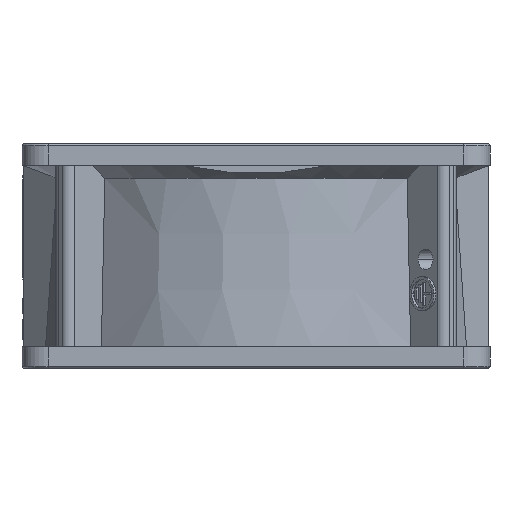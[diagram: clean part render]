
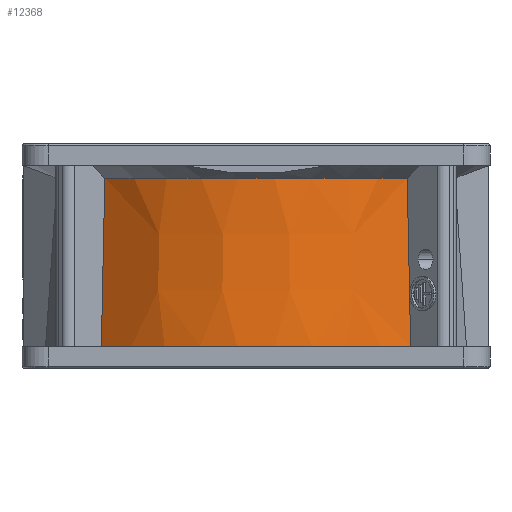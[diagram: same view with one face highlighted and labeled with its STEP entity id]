
A CAD part, left-side view. The second image highlights one B-rep face of the part: STEP entity #12368.
In plain terms, the highlighted conical face has half-angle 1.66 degrees and reference radius 38.981 mm.
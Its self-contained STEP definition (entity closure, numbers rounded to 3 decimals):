
#399=CARTESIAN_POINT('',(-115.,0.,-94.914));
#400=DIRECTION('',(0.,0.,1.));
#401=DIRECTION('',(-0.742,0.67,0.));
#402=AXIS2_PLACEMENT_3D('',#399,#400,#401);
#563=CARTESIAN_POINT('',(-143.647,25.818,-66.172));
#564=CARTESIAN_POINT('',(-143.712,25.884,-69.355));
#565=CARTESIAN_POINT('',(-143.843,26.014,-75.728));
#566=CARTESIAN_POINT('',(-144.039,26.211,-85.309));
#567=CARTESIAN_POINT('',(-144.171,26.342,-91.71));
#568=CARTESIAN_POINT('',(-144.236,26.408,-94.914));
#570=CARTESIAN_POINT('',(-144.236,-26.408,-94.914));
#571=CARTESIAN_POINT('',(-144.171,-26.342,
-91.71));
#572=CARTESIAN_POINT('',(-144.039,-26.211,
-85.309));
#573=CARTESIAN_POINT('',(-143.843,-26.014,
-75.728));
#574=CARTESIAN_POINT('',(-143.712,-25.884,
-69.355));
#575=CARTESIAN_POINT('',(-143.647,-25.818,
-66.172));
#2505=CARTESIAN_POINT('',(-115.,0.,-66.172));
#2506=DIRECTION('',(0.,0.,-1.));
#2507=DIRECTION('',(-0.743,-0.669,0.));
#2508=AXIS2_PLACEMENT_3D('',#2505,#2506,#2507);
#11463=VERTEX_POINT('',#563);
#11464=VERTEX_POINT('',#568);
#11465=VERTEX_POINT('',#570);
#11466=VERTEX_POINT('',#575);
#12355=CARTESIAN_POINT('',(-115.,0.,-80.543));
#12356=DIRECTION('',(0.,0.,-1.));
#12357=DIRECTION('',(-1.,0.,0.));
#12358=AXIS2_PLACEMENT_3D('',#12355,#12356,#12357);
#12359=CONICAL_SURFACE('',#12358,38.981,1.66);
#12361=ORIENTED_EDGE('',*,*,#12360,.F.);
#12363=ORIENTED_EDGE('',*,*,#12362,.F.);
#12364=ORIENTED_EDGE('',*,*,#12269,.F.);
#12365=ORIENTED_EDGE('',*,*,#12120,.F.);
#12366=EDGE_LOOP('',(#12361,#12363,#12364,#12365));
#12367=FACE_OUTER_BOUND('',#12366,.F.);
#12368=ADVANCED_FACE('',(#12367),#12359,.T.);
#403=CIRCLE('',#402,39.397);
#569=B_SPLINE_CURVE_WITH_KNOTS('',3,(#563,#564,#565,#566,#567,#568),
.UNSPECIFIED.,.F.,.F.,(4,1,1,4),(0.,0.333,0.667,1.),
.UNSPECIFIED.);
#576=B_SPLINE_CURVE_WITH_KNOTS('',3,(#570,#571,#572,#573,#574,#575),
.UNSPECIFIED.,.F.,.F.,(4,1,1,4),(0.,0.333,0.667,1.),
.UNSPECIFIED.);
#2509=CIRCLE('',#2508,38.564);
#12120=EDGE_CURVE('',#11464,#11465,#403,.T.);
#12269=EDGE_CURVE('',#11465,#11466,#576,.T.);
#12360=EDGE_CURVE('',#11463,#11464,#569,.T.);
#12362=EDGE_CURVE('',#11466,#11463,#2509,.T.);
